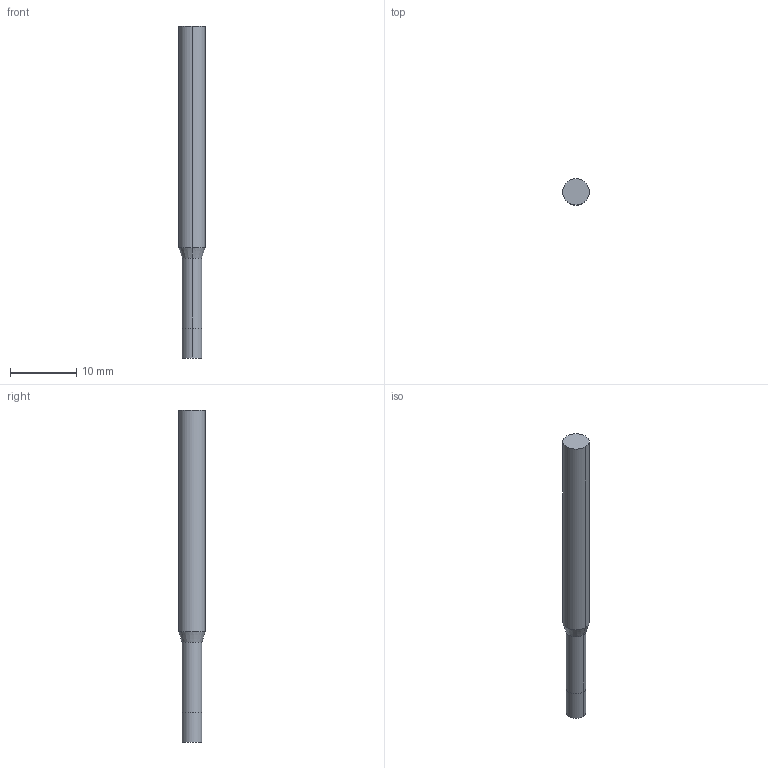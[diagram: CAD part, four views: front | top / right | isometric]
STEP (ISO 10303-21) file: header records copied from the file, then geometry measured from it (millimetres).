
FILE_DESCRIPTION((' '),'2;1');
FILE_NAME( '3MVSM0300N5AH.stp', '2026-01-21T19:27:59', (' '), ('--- Datakit www.datakit.com---'), ' Datakit CrossCadWare V2025.4 Sep 19 2025', 'Mastercam 2027', ' ');
FILE_SCHEMA(('AUTOMOTIVE_DESIGN { 1 0 10303 214 1 1 1 1 }'));
Length unit declared in the file: inch
Products named in the file (1): 3MVSM0300N5AH
Bounding box: 4 x 4 x 50 mm (x, y, z)
Volume: 541.2 mm3; surface area: 599.1 mm2
Topology: 1 solids, 1 shells, 10 faces, 18 edges, 10 vertices
Faces by surface type: cylinder 6, plane 2, cone 2
Entity records: 323 total; most frequent: DIRECTION 58, CARTESIAN_POINT 43, ORIENTED_EDGE 36, AXIS2_PLACEMENT_3D 25, EDGE_CURVE 18, VERTEX_POINT 10, CIRCLE 10, EDGE_LOOP 10
